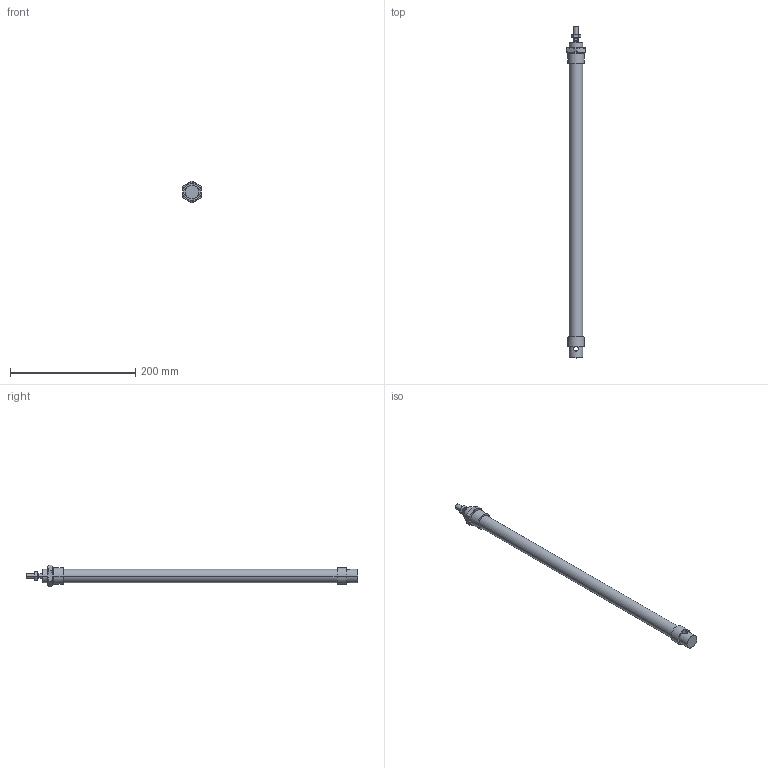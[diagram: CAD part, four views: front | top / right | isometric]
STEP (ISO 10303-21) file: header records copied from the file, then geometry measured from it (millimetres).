
FILE_DESCRIPTION((''),'2;1');
FILE_NAME('I:\DOC-EDP\Lib-3d\1200\CILINDRI\1280\1280_20_0400.stp','2003-04-07T17:59:21',('maffial1'),(''),'Autodesk Inventor (R) 6.0','Autodesk Inventor (R) 6.0','');
FILE_SCHEMA(('AUTOMOTIVE_DESIGN { 1 0 10303 214 1 1 1 1 }'));
Length unit declared in the file: millimetre
Products named in the file (5): 1280_20_0400; S1280_20_400; 1200_20_05; 1200_20_06; C1280_20_400
Assembly tree (4 placements, depth 2):
  1280_20_0400
    S1280_20_400
    1200_20_05
    1200_20_06
    C1280_20_400
Bounding box: 30 x 530 x 34.64 mm (x, y, z)
Volume: 189414.3 mm3; surface area: 61272.7 mm2
Topology: 4 solids, 4 shells, 99 faces, 220 edges, 132 vertices
Faces by surface type: plane 35, cone 34, cylinder 20, bspline 10
Entity records: 3013 total; most frequent: CARTESIAN_POINT 806, DIRECTION 456, ORIENTED_EDGE 440, EDGE_CURVE 220, AXIS2_PLACEMENT_3D 194, VERTEX_POINT 132, EDGE_LOOP 108, FACE_OUTER_BOUND 99
